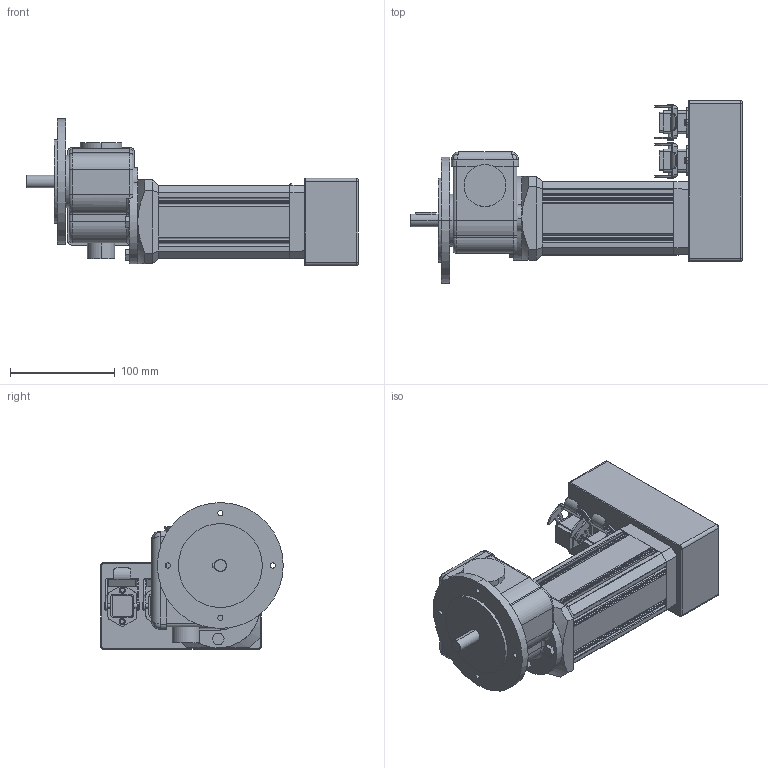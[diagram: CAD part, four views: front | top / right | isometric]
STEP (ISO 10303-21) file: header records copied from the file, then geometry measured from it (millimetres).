
FILE_DESCRIPTION(('OneSpaceDesigner STEP Export'),'2;1');
FILE_NAME('UECG323TH_GF23-10_Q.stp','2008-06-25T14:55:41',(''),(''),'OneSpace Designer STEP processor (Jan. 2003) for AP214(CD)(Solid Model)','OneSpace Designer 12.01D 09-Jul-2004 (C) CoCreate Software GmbH','');
FILE_SCHEMA(('AUTOMOTIVE_DESIGN_CC2 {1 2 10303 214 -1 1 5 1}'));
Length unit declared in the file: millimetre
Products named in the file (2): UECG323TH_GF23-10_Q
Assembly tree (1 placements, depth 2):
  UECG323TH_GF23-10_Q
    UECG323TH_GF23-10_Q
Bounding box: 316.5 x 174 x 140 mm (x, y, z)
Volume: 2088453.3 mm3; surface area: 176539.3 mm2
Topology: 1 solids, 1 shells, 590 faces, 1562 edges, 1001 vertices
Faces by surface type: cylinder 285, plane 250, torus 36, bspline 12, cone 6, sphere 1
Entity records: 21019 total; most frequent: CARTESIAN_POINT 6931, ORIENTED_EDGE 3122, DIRECTION 2747, EDGE_CURVE 1561, VERTEX_POINT 1001, AXIS2_PLACEMENT_3D 957, VECTOR 833, LINE 833
